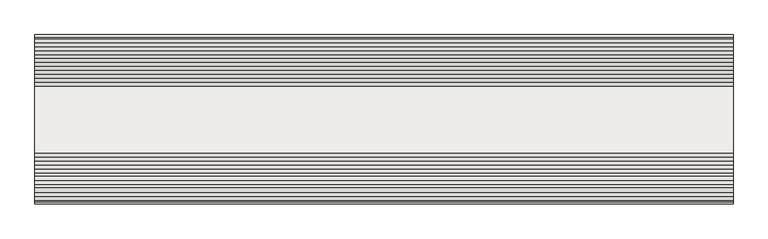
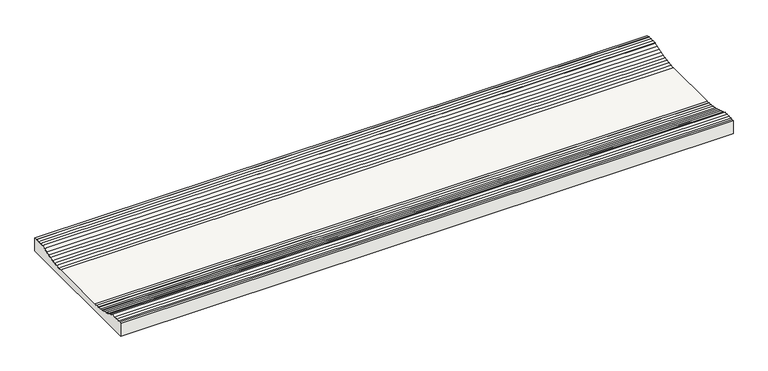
"""IFC4 building model written with IfcOpenShell, lengths in millimetres: slab geometry, ROSA GRES_204 : Pieza 204_Indugres_Indubeige_Tecno."""

from ifc_helpers import new_model, si_unit, point, frame, frame_2d, origin, place, context, project, spatial, polyline, circle_curve, trimmed, segment, composite_curve, outline, extrude, source, transform, mapped, element, save


def slab_f85bad20(model_context):
    return source(origin(), model_context, "Body", "SweptSolid", [
        extrude(outline(composite_curve([segment(polyline([(0.0, 0.0), (0.0, 22.8672484), (3.4834385, 22.8672484)]), True, "CONTINUOUS"), segment(trimmed(circle_curve(frame_2d((3.4834385, 24.9459193)), 2.078671), [point((3.4834385, 22.8672484))], [point((5.3933441, 24.1254722))], True, "CARTESIAN"), True, "CONTINUOUS"), segment(trimmed(circle_curve(frame_2d((8.4772441, 27.2443435)), 4.3860914), [point((5.3933441, 24.1254722))], [point((11.4768535, 24.0443215))], True, "CARTESIAN"), True, "CONTINUOUS"), segment(trimmed(circle_curve(frame_2d((14.4834385, 27.2619892)), 4.4037415), [point((11.4768535, 24.0443215))], [point((17.4838192, 24.0385354))], True, "CARTESIAN"), True, "CONTINUOUS"), segment(trimmed(circle_curve(frame_2d((20.4772441, 27.2443435)), 4.3860914), [point((17.4838192, 24.0385354))], [point((23.5481555, 24.1126825))], True, "CARTESIAN"), True, "CONTINUOUS"), segment(trimmed(circle_curve(frame_2d((27.5873515, 25.8222711)), 4.3860914), [point((23.5481555, 24.1126825))], [point((29.0929084, 21.702672))], True, "CARTESIAN"), True, "CONTINUOUS"), segment(trimmed(circle_curve(frame_2d((32.9910112, 23.7132919)), 4.3860914), [point((29.0929084, 21.702672))], [point((34.6740913, 19.6629784))], True, "CARTESIAN"), True, "CONTINUOUS"), segment(trimmed(circle_curve(frame_2d((38.5344705, 21.7451095)), 4.3860914), [point((34.6740913, 19.6629784))], [point((40.406127, 17.7784107))], True, "CARTESIAN"), True, "CONTINUOUS"), segment(trimmed(circle_curve(frame_2d((44.1065968, 20.1330489)), 4.3860914), [point((40.406127, 17.7784107))], [point((46.146977, 16.2504407))], True, "CARTESIAN"), True, "CONTINUOUS"), segment(trimmed(circle_curve(frame_2d((49.7914497, 18.690854)), 4.3860914), [point((46.146977, 16.2504407))], [point((52.0386105, 14.9241491))], True, "CARTESIAN"), True, "CONTINUOUS"), segment(trimmed(circle_curve(frame_2d((55.5496933, 17.5528551)), 4.3860914), [point((52.0386105, 14.9241491))], [point((57.8759715, 13.8344915))], True, "CARTESIAN"), True, "CONTINUOUS"), segment(trimmed(circle_curve(frame_2d((61.3099097, 16.563203)), 4.3860914), [point((57.8759715, 13.8344915))], [point((63.8574067, 12.9927609))], True, "CARTESIAN"), True, "CONTINUOUS"), segment(trimmed(circle_curve(frame_2d((67.1546539, 15.8851576)), 4.3860914), [point((63.8574067, 12.9927609))], [point((69.7580788, 12.3552884))], True, "CARTESIAN"), True, "CONTINUOUS"), segment(trimmed(circle_curve(frame_2d((72.9411902, 15.372837)), 4.3860914), [point((69.7580788, 12.3552884))], [point((75.6586011, 11.9299493))], True, "CARTESIAN"), True, "CONTINUOUS"), segment(polyline([(75.6586011, 11.9299493), (174.3413989, 11.9299493)]), True, "CONTINUOUS"), segment(trimmed(circle_curve(frame_2d((177.0588098, 15.372837)), 4.3860914), [point((174.3413989, 11.9299493))], [point((180.2419212, 12.3552884))], True, "CARTESIAN"), True, "CONTINUOUS"), segment(trimmed(circle_curve(frame_2d((182.8453461, 15.8851576)), 4.3860914), [point((180.2419212, 12.3552884))], [point((186.1425933, 12.9927609))], True, "CARTESIAN"), True, "CONTINUOUS"), segment(trimmed(circle_curve(frame_2d((188.6900903, 16.563203)), 4.3860914), [point((186.1425933, 12.9927609))], [point((192.1240285, 13.8344915))], True, "CARTESIAN"), True, "CONTINUOUS"), segment(trimmed(circle_curve(frame_2d((194.4503067, 17.5528551)), 4.3860914), [point((192.1240285, 13.8344915))], [point((197.9613895, 14.9241491))], True, "CARTESIAN"), True, "CONTINUOUS"), segment(trimmed(circle_curve(frame_2d((200.2085503, 18.690854)), 4.3860914), [point((197.9613895, 14.9241491))], [point((203.853023, 16.2504407))], True, "CARTESIAN"), True, "CONTINUOUS"), segment(trimmed(circle_curve(frame_2d((205.8934032, 20.1330489)), 4.3860914), [point((203.853023, 16.2504407))], [point((209.593873, 17.7784107))], True, "CARTESIAN"), True, "CONTINUOUS"), segment(trimmed(circle_curve(frame_2d((211.4655295, 21.7451095)), 4.3860914), [point((209.593873, 17.7784107))], [point((215.3259087, 19.6629784))], True, "CARTESIAN"), True, "CONTINUOUS"), segment(trimmed(circle_curve(frame_2d((217.0089888, 23.7132919)), 4.3860914), [point((215.3259087, 19.6629784))], [point((220.9070916, 21.702672))], True, "CARTESIAN"), True, "CONTINUOUS"), segment(trimmed(circle_curve(frame_2d((222.4126485, 25.8222711)), 4.3860914), [point((220.9070916, 21.702672))], [point((226.4518445, 24.1126825))], True, "CARTESIAN"), True, "CONTINUOUS"), segment(trimmed(circle_curve(frame_2d((229.5227559, 27.2443435)), 4.3860914), [point((226.4518445, 24.1126825))], [point((232.5161808, 24.0385354))], True, "CARTESIAN"), True, "CONTINUOUS"), segment(trimmed(circle_curve(frame_2d((235.5165615, 27.2619892)), 4.4037415), [point((232.5161808, 24.0385354))], [point((238.5231465, 24.0443215))], True, "CARTESIAN"), True, "CONTINUOUS"), segment(trimmed(circle_curve(frame_2d((241.5227559, 27.2443435)), 4.3860914), [point((238.5231465, 24.0443215))], [point((244.6066559, 24.1254722))], True, "CARTESIAN"), True, "CONTINUOUS"), segment(trimmed(circle_curve(frame_2d((246.5165615, 24.9459193)), 2.078671), [point((244.6066559, 24.1254722))], [point((246.5165615, 22.8672484))], True, "CARTESIAN"), True, "CONTINUOUS"), segment(polyline([(246.5165615, 22.8672484), (250.0, 22.8672484), (250.0, 0.0), (0.0, 0.0)]), True, "CONTINUOUS")], self_intersect=False)), frame((0.0, 0.0, 0.0), z_axis=(1.0, 0.0, 0.0), x_axis=(0.0, 1.0, 0.0)), (0.0, 0.0, 1.0), 1030.0265886),
    ])


if __name__ == "__main__":
    model = new_model("IFC4")
    model_context = context("Model", 3, world=origin())
    ifc_project = project(units=[si_unit("LENGTHUNIT", "METRE", prefix="MILLI")], contexts=[model_context])
    site = spatial("IfcSite", under=ifc_project)
    building = spatial("IfcBuilding", under=site)
    placement = place(None, origin())
    slab_shape = slab_f85bad20(model_context)
    element("IfcSlab", 1, ObjectType="ROSA GRES_204 : Pieza 204_Indugres_Indubeige_Tecno", at=placement, inside=building, context=model_context, shape_type="MappedRepresentation", body=[
        mapped(slab_shape, transform((0.0, 0.0, 0.0), x_axis=(1.0, 0.0, 0.0), y_axis=(0.0, 1.0, 0.0), z_axis=(0.0, 0.0, 1.0))),
    ])
    save(model, "model.ifc")
